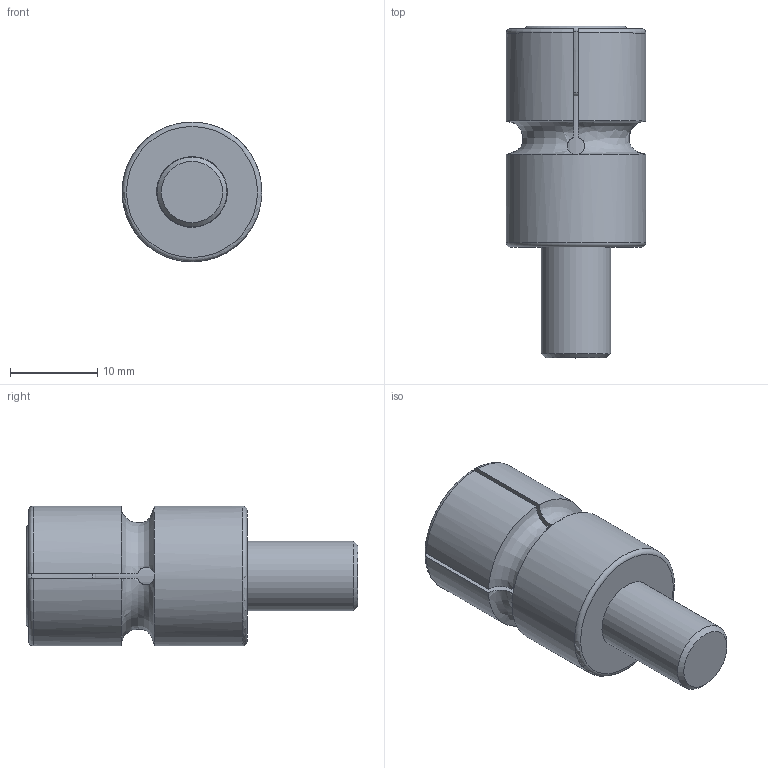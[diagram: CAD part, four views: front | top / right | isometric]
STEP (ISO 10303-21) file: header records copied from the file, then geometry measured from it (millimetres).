
FILE_DESCRIPTION(/* description */ (''),/* implementation_level */ '2;1');
FILE_NAME(/* name */ '16MM扩张销.stp',/* time_stamp */ '2023-11-24T01:54:13+08:00',/* author */ (''),/* organization */ (''),/* preprocessor_version */ 'ST-DEVELOPER v16',/* originating_system */ 'SIEMENS PLM Software NX 10.0',/* authorisation */ '');
FILE_SCHEMA (('CONFIG_CONTROL_DESIGN'));
Length unit declared in the file: millimetre
Products named in the file (1): 15MM扩张销_stp
Bounding box: 16 x 38 x 16 mm (x, y, z)
Volume: 5142.9 mm3; surface area: 3791.9 mm2
Topology: 2 solids, 2 shells, 57 faces, 148 edges, 96 vertices
Faces by surface type: plane 23, cylinder 17, torus 7, cone 6, bspline 4
Full cylindrical faces by diameter (mm): 8 x1, 8.1 x1, 16 x1
Entity records: 3452 total; most frequent: CARTESIAN_POINT 2110, ORIENTED_EDGE 272, DIRECTION 228, EDGE_CURVE 136, VERTEX_POINT 92, AXIS2_PLACEMENT_3D 86, EDGE_LOOP 68, ADVANCED_FACE 57
